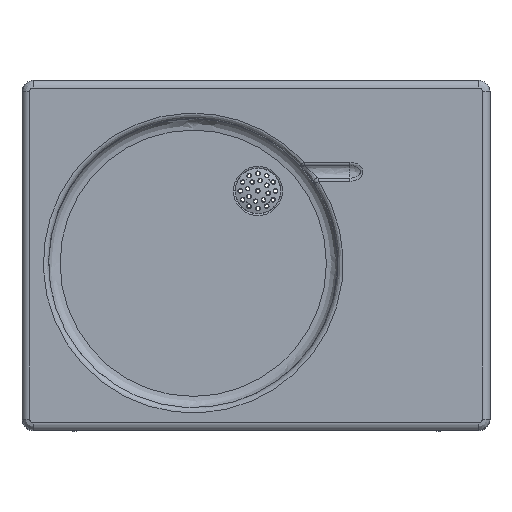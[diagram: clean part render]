
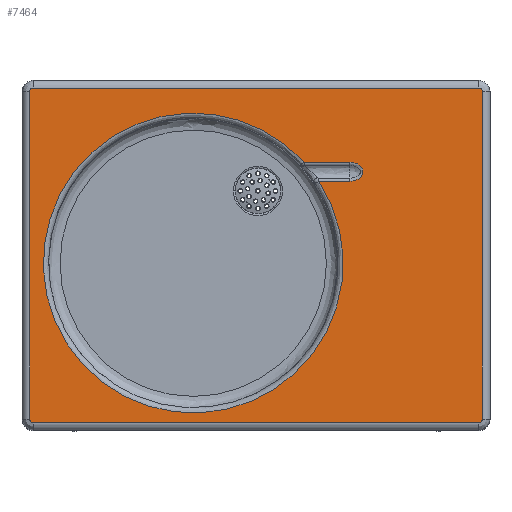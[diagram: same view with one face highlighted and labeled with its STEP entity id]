
A CAD part, top view. The second image highlights one B-rep face of the part: STEP entity #7464.
In plain terms, the highlighted free-form (B-spline) face has degree [1, 1] with [2, 2] control points.
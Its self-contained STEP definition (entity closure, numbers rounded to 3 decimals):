
#4545=CARTESIAN_POINT('',(-207.277,-85.434,185.0));
#4546=VERTEX_POINT('',#4545);
#4570=CARTESIAN_POINT('',(-187.873,-110.566,185.0));
#4571=VERTEX_POINT('',#4570);
#4572=CARTESIAN_POINT('',(-353.0,-218.0,185.0));
#4573=DIRECTION('',(0.0,0.0,-1.0));
#4574=DIRECTION('',(0.0,-1.0,0.0));
#4575=AXIS2_PLACEMENT_3D('',#4572,#4573,#4574);
#4576=CIRCLE('',#4575,197.);
#4577=EDGE_CURVE('',#4571,#4546,#4576,.T.);
#4878=CARTESIAN_POINT('',(-147.123,-110.566,185.0));
#4879=VERTEX_POINT('',#4878);
#4880=CARTESIAN_POINT('',(-147.123,-110.566,185.0));
#4881=DIRECTION('',(-1.0,0.0,0.0));
#4882=VECTOR('',#4881,40.75);
#4883=LINE('',#4880,#4882);
#4884=EDGE_CURVE('',#4879,#4571,#4883,.T.);
#6106=CARTESIAN_POINT('',(-147.123,-85.434,185.0));
#6107=VERTEX_POINT('',#6106);
#6157=CARTESIAN_POINT('',(-147.123,-85.434,185.0));
#6158=CARTESIAN_POINT('',(-146.291,-85.434,185.0));
#6159=CARTESIAN_POINT('',(-145.178,-85.497,185.));
#6160=CARTESIAN_POINT('',(-143.521,-85.719,185.));
#6161=CARTESIAN_POINT('',(-142.156,-85.983,185.0));
#6162=CARTESIAN_POINT('',(-140.638,-86.4,185.));
#6163=CARTESIAN_POINT('',(-139.412,-86.837,185.));
#6164=CARTESIAN_POINT('',(-138.041,-87.414,185.));
#6165=CARTESIAN_POINT('',(-136.969,-87.965,185.));
#6166=CARTESIAN_POINT('',(-135.705,-88.743,185.));
#6167=CARTESIAN_POINT('',(-134.635,-89.497,185.));
#6168=CARTESIAN_POINT('',(-133.648,-90.357,185.));
#6169=CARTESIAN_POINT('',(-132.603,-91.419,185.));
#6170=CARTESIAN_POINT('',(-131.787,-92.428,185.));
#6171=CARTESIAN_POINT('',(-131.022,-93.709,185.));
#6172=CARTESIAN_POINT('',(-130.553,-94.72,185.));
#6173=CARTESIAN_POINT('',(-130.231,-95.687,185.));
#6174=CARTESIAN_POINT('',(-130.074,-96.415,185.));
#6175=CARTESIAN_POINT('',(-129.964,-97.149,185.));
#6176=CARTESIAN_POINT('',(-129.907,-97.981,185.));
#6177=CARTESIAN_POINT('',(-129.972,-99.005,185.));
#6178=CARTESIAN_POINT('',(-130.103,-99.733,185.));
#6179=CARTESIAN_POINT('',(-130.279,-100.454,185.));
#6180=CARTESIAN_POINT('',(-130.541,-101.251,185.));
#6181=CARTESIAN_POINT('',(-130.968,-102.177,185.));
#6182=CARTESIAN_POINT('',(-131.337,-102.82,185.));
#6183=CARTESIAN_POINT('',(-131.94,-103.759,185.));
#6184=CARTESIAN_POINT('',(-132.937,-104.998,185.0));
#6185=CARTESIAN_POINT('',(-134.31,-106.241,185.0));
#6186=CARTESIAN_POINT('',(-136.114,-107.569,185.));
#6187=CARTESIAN_POINT('',(-137.595,-108.386,185.));
#6188=CARTESIAN_POINT('',(-139.295,-109.118,185.));
#6189=CARTESIAN_POINT('',(-140.253,-109.468,185.));
#6190=CARTESIAN_POINT('',(-141.324,-109.788,185.));
#6191=CARTESIAN_POINT('',(-142.409,-110.066,185.));
#6192=CARTESIAN_POINT('',(-144.336,-110.439,185.));
#6193=CARTESIAN_POINT('',(-146.014,-110.566,185.0));
#6194=CARTESIAN_POINT('',(-147.123,-110.566,185.0));
#6195=B_SPLINE_CURVE_WITH_KNOTS('',3,(#6157,#6158,#6159,#6160,#6161,#6162,#6163,#6164,#6165,#6166,#6167,#6168,#6169,#6170,#6171,#6172,#6173,#6174,#6175,#6176,#6177,#6178,#6179,#6180,#6181,#6182,#6183,#6184,#6185,#6186,#6187,#6188,#6189,#6190,#6191,#6192,#6193,#6194),.UNSPECIFIED.,.F.,.U.,(4,1,1,1,1,1,1,1,1,1,1,1,1,1,1,1,1,1,1,1,1,1,1,1,1,1,1,1,1,1,1,1,1,1,1,4),(0.0,0.25,0.333,0.499,0.666,0.804,0.888,1.109,1.165,1.331,1.498,1.553,1.775,1.886,1.997,2.108,2.191,2.219,2.33,2.441,2.524,2.552,2.663,2.774,2.857,2.885,3.107,3.328,3.439,3.772,3.828,3.994,4.077,4.161,4.327,4.66),.UNSPECIFIED.);
#6196=EDGE_CURVE('',#6107,#4879,#6195,.T.);
#6243=CARTESIAN_POINT('',(-207.277,-85.434,185.0));
#6244=DIRECTION('',(1.0,0.0,0.0));
#6245=VECTOR('',#6244,60.153);
#6246=LINE('',#6243,#6245);
#6247=EDGE_CURVE('',#4546,#6107,#6246,.T.);
#7383=CARTESIAN_POINT('',(27.0,12.,185.0));
#7384=CARTESIAN_POINT('',(-568.0,12.,185.0));
#7385=CARTESIAN_POINT('',(27.0,-428.0,185.0));
#7386=CARTESIAN_POINT('',(-568.0,-428.0,185.0));
#7387=B_SPLINE_SURFACE_WITH_KNOTS('',1,1,((#7383,#7385),(#7384,#7386)),.UNSPECIFIED.,.F.,.F.,.U.,(2,2),(2,2),(0.0,595.0),(0.0,440.0),.UNSPECIFIED.);
#7388=CARTESIAN_POINT('',(-563.0,-428.,185.0));
#7389=VERTEX_POINT('',#7388);
#7390=CARTESIAN_POINT('',(22.,-428.0,185.0));
#7391=VERTEX_POINT('',#7390);
#7392=CARTESIAN_POINT('',(-563.0,-428.,185.0));
#7393=DIRECTION('',(1.0,0.0,0.0));
#7394=VECTOR('',#7393,585.);
#7395=LINE('',#7392,#7394);
#7396=EDGE_CURVE('',#7389,#7391,#7395,.T.);
#7397=ORIENTED_EDGE('',*,*,#7396,.T.);
#7398=CARTESIAN_POINT('',(27.,-423.0,185.0));
#7399=VERTEX_POINT('',#7398);
#7400=CARTESIAN_POINT('',(22.,-423.0,185.0));
#7401=DIRECTION('',(0.0,0.0,1.0));
#7402=DIRECTION('',(0.707,-0.707,0.0));
#7403=AXIS2_PLACEMENT_3D('',#7400,#7401,#7402);
#7404=CIRCLE('',#7403,5.0);
#7405=EDGE_CURVE('',#7391,#7399,#7404,.T.);
#7406=ORIENTED_EDGE('',*,*,#7405,.T.);
#7407=CARTESIAN_POINT('',(27.0,7.,185.0));
#7408=VERTEX_POINT('',#7407);
#7409=CARTESIAN_POINT('',(27.,-423.0,185.0));
#7410=DIRECTION('',(0.0,1.0,0.0));
#7411=VECTOR('',#7410,430.0);
#7412=LINE('',#7409,#7411);
#7413=EDGE_CURVE('',#7399,#7408,#7412,.T.);
#7414=ORIENTED_EDGE('',*,*,#7413,.T.);
#7415=CARTESIAN_POINT('',(22.0,12.,185.0));
#7416=VERTEX_POINT('',#7415);
#7417=CARTESIAN_POINT('',(22.0,7.,185.0));
#7418=DIRECTION('',(0.0,0.0,1.));
#7419=DIRECTION('',(0.707,0.707,0.0));
#7420=AXIS2_PLACEMENT_3D('',#7417,#7418,#7419);
#7421=CIRCLE('',#7420,5.);
#7422=EDGE_CURVE('',#7408,#7416,#7421,.T.);
#7423=ORIENTED_EDGE('',*,*,#7422,.T.);
#7424=CARTESIAN_POINT('',(-563.0,12.,185.0));
#7425=VERTEX_POINT('',#7424);
#7426=CARTESIAN_POINT('',(22.0,12.,185.0));
#7427=DIRECTION('',(-1.0,0.0,0.0));
#7428=VECTOR('',#7427,585.0);
#7429=LINE('',#7426,#7428);
#7430=EDGE_CURVE('',#7416,#7425,#7429,.T.);
#7431=ORIENTED_EDGE('',*,*,#7430,.T.);
#7432=CARTESIAN_POINT('',(-568.0,7.,185.0));
#7433=VERTEX_POINT('',#7432);
#7434=CARTESIAN_POINT('',(-563.0,7.,185.0));
#7435=DIRECTION('',(0.0,0.0,1.));
#7436=DIRECTION('',(-0.707,0.707,0.0));
#7437=AXIS2_PLACEMENT_3D('',#7434,#7435,#7436);
#7438=CIRCLE('',#7437,5.0);
#7439=EDGE_CURVE('',#7425,#7433,#7438,.T.);
#7440=ORIENTED_EDGE('',*,*,#7439,.T.);
#7441=CARTESIAN_POINT('',(-568.0,-423.,185.0));
#7442=VERTEX_POINT('',#7441);
#7443=CARTESIAN_POINT('',(-568.0,7.,185.0));
#7444=DIRECTION('',(0.0,-1.0,0.0));
#7445=VECTOR('',#7444,430.);
#7446=LINE('',#7443,#7445);
#7447=EDGE_CURVE('',#7433,#7442,#7446,.T.);
#7448=ORIENTED_EDGE('',*,*,#7447,.T.);
#7449=CARTESIAN_POINT('',(-563.0,-423.,185.0));
#7450=DIRECTION('',(0.0,0.0,1.));
#7451=DIRECTION('',(-0.707,-0.707,0.0));
#7452=AXIS2_PLACEMENT_3D('',#7449,#7450,#7451);
#7453=CIRCLE('',#7452,5.);
#7454=EDGE_CURVE('',#7442,#7389,#7453,.T.);
#7455=ORIENTED_EDGE('',*,*,#7454,.T.);
#7456=EDGE_LOOP('',(#7397,#7406,#7414,#7423,#7431,#7440,#7448,#7455));
#7457=FACE_OUTER_BOUND('',#7456,.T.);
#7458=ORIENTED_EDGE('',*,*,#4577,.T.);
#7459=ORIENTED_EDGE('',*,*,#6247,.T.);
#7460=ORIENTED_EDGE('',*,*,#6196,.T.);
#7461=ORIENTED_EDGE('',*,*,#4884,.T.);
#7462=EDGE_LOOP('',(#7458,#7459,#7460,#7461));
#7463=FACE_BOUND('',#7462,.T.);
#7464=ADVANCED_FACE('',(#7457,#7463),#7387,.T.);
